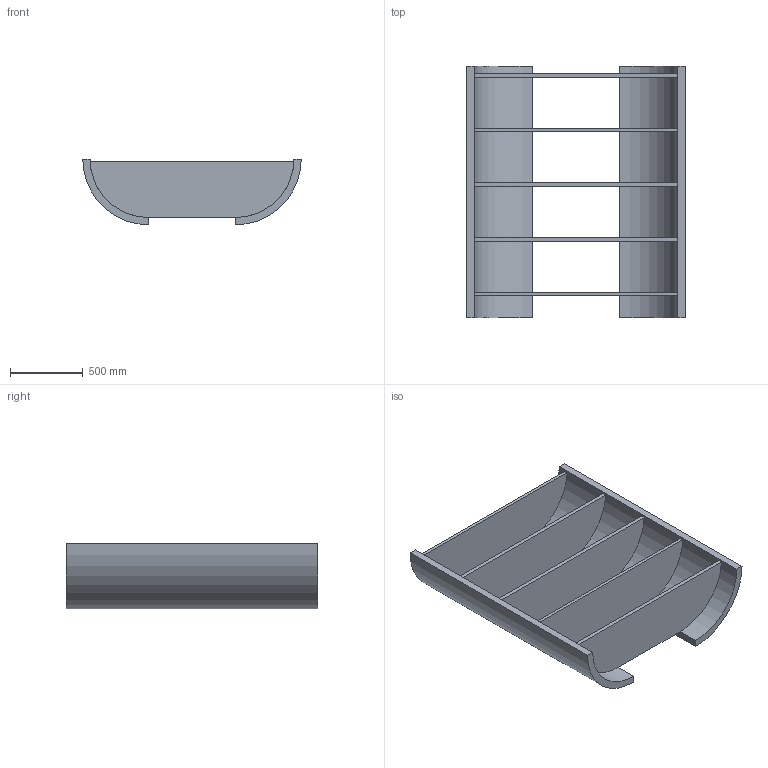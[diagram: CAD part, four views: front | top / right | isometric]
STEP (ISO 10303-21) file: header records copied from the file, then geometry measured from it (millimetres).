
FILE_DESCRIPTION (( 'STEP AP214' ), '1' );
FILE_NAME ('055F001_R00 Shelfing High.STEP', '2023-11-23T08:45:32', ( '' ), ( '' ), 'SwSTEP 2.0', 'SolidWorks 2022', '' );
FILE_SCHEMA (( 'AUTOMOTIVE_DESIGN' ));
Length unit declared in the file: millimetre
Products named in the file (4): MirrorShelfing High - side; 055F201_R00 Shelfing High - side; 055F001_R00 Shelfing High; 055F202_R00 Shelfing High - shelf
Assembly tree (7 placements, depth 2):
  055F001_R00 Shelfing High
    055F201_R00 Shelfing High - side
    MirrorShelfing High - side
    055F202_R00 Shelfing High - shelf  x5
Bounding box: 1500 x 1725 x 450 mm (x, y, z)
Volume: 173950283.9 mm3; surface area: 10191438.6 mm2
Topology: 7 solids, 7 shells, 42 faces, 84 edges, 56 vertices
Faces by surface type: plane 28, cylinder 14
Entity records: 658 total; most frequent: DIRECTION 104, CARTESIAN_POINT 88, ORIENTED_EDGE 72, AXIS2_PLACEMENT_3D 40, EDGE_CURVE 36, VERTEX_POINT 24, LINE 24, VECTOR 24
